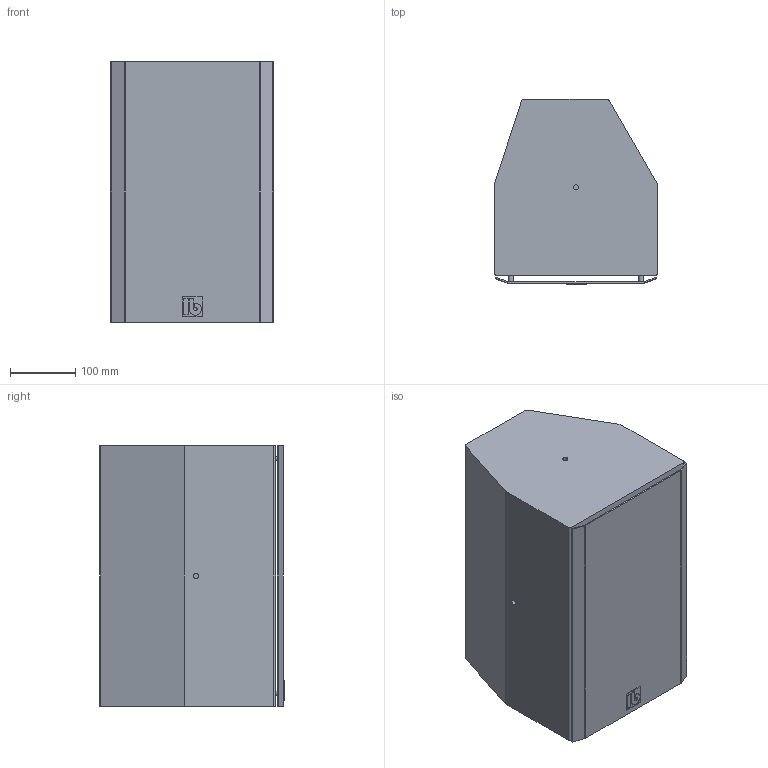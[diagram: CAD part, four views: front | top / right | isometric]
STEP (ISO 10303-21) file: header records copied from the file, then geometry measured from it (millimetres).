
FILE_DESCRIPTION(/* description */ (''),/* implementation_level */ '2;1');
FILE_NAME(/* name */ 'F8.stp',/* time_stamp */ '2024-08-21T16:31:04+02:00',/* author */ ('d.streicher'),/* organization */ (''),/* preprocessor_version */ 'ST-DEVELOPER v20',/* originating_system */ 'Autodesk Inventor 2025',/* authorisation */ '');
FILE_SCHEMA (('AUTOMOTIVE_DESIGN { 1 0 10303 214 3 1 1 }'));
Length unit declared in the file: millimetre
Products named in the file (1): F8
Bounding box: 250 x 283.5 x 400 mm (x, y, z)
Volume: 22976360.6 mm3; surface area: 752353.7 mm2
Topology: 1 solids, 1 shells, 87 faces, 201 edges, 138 vertices
Faces by surface type: plane 52, cylinder 32, bspline 2, cone 1
Full cylindrical faces by diameter (mm): 6 x2, 7 x4, 8 x4, 22 x2, 50 x2, 210 x1, 212 x1
Entity records: 2844 total; most frequent: CARTESIAN_POINT 581, DIRECTION 444, ORIENTED_EDGE 402, EDGE_CURVE 201, AXIS2_PLACEMENT_3D 158, VERTEX_POINT 132, LINE 128, VECTOR 128
